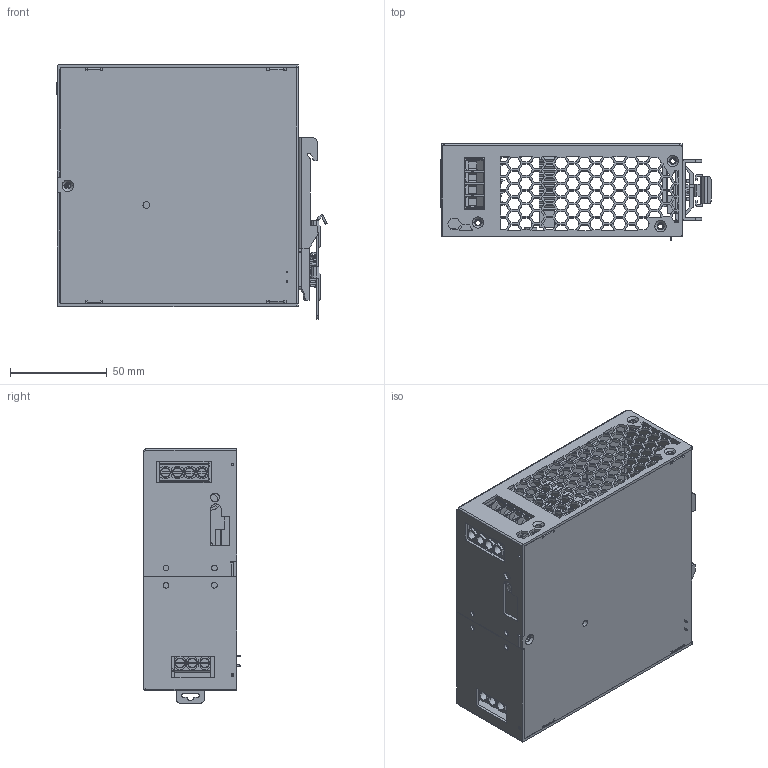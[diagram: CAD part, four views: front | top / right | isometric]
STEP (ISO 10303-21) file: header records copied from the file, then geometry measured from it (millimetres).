
FILE_DESCRIPTION(('Creo Elements/Direct Modeling STEP Export'),'2;1');
FILE_NAME('XDR-480高阶.stp','2025-12-02T10:07:30',(''),(''),'Creo Elements/Direct Modeling STEP processor for AP214 (Solid Model)','Creo Elements/Direct Modeling 19.0G 27-Nov-2017 (C) Parametric Technology GmbH','');
FILE_SCHEMA(('AUTOMOTIVE_DESIGN { 1 0 10303 214 1 1 1 1 }'));
Length unit declared in the file: millimetre
Products named in the file (171): 固定铁.1; SZ915-R1X.1; 1GG4CU-SZ039.1; 1GG4CU-SZ039.1.1; FG2; BOARD.PRT; DG637-6_35-03P-1Y-00AH.prt.1; DG637-6_35-03P-1Y-00AH.prt.2; DG637-6_35-03P-1Y-00AH.prt; TB1_1.ASM; _X2_4EA754C1_X0_1_ALLCATPART_1_.PRT; 4PIN__27MM.ASM; TB2_1.ASM; 512774800_1.PRT; 512774800_2.PRT; 512774800_3.PRT; 512774800_4.PRT; 512774800.ASM; R4.ASM; R3.ASM; CYLINDER-274838.PRT; 512786504.ASM.4; C1.ASM; USER_LIBRARY-KBJ-GSIB.PRT; BD1.ASM; EXTRUDED-344373.PRT; 2ARD-SURGE_ARRESTER.ASM; EXTRUDED-346773.PRT; 2ARD-SURGE_ARRESTER_4072498801.ASM.5; D4.ASM; 2CUX-SOIC8.PRT; U6.ASM; EXTRUDED-362335.PRT; 2CUX-SOD123.ASM; EXTRUDED-362863.PRT; 622740384.ASM; EXTRUDED-363240.PRT; 622741824.ASM; U5.ASM; R1.ASM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
Assembly tree (190 placements, depth 7):
  XDR-480E
    零件1.2
    零件1.1
    陶瓷片
    零件1
    固定铁
    麦拉3
    D1-73336.ASM
      1CDX-TO220AB-AC-VT.ASM
        USER_LIBRARY-TO220-2_V-L_TO220_.PRT
        USER_LIBRARY-TO220-2_V-L_FUSION.ASM
          USER_LIBRARY-TO220-2_V-L_FUSI_3.PRT
          USER_LIBRARY-TO220-2_V-L_FUSI_2.PRT
          USER_LIBRARY-TO220-2_V-L_FUSI_1.PRT
    Q1.ASM
      865563184.ASM.6  x2
        EXTRUDED-340821.PRT
      1CDX-TO220F-A_AKA_-VT-1_3608228.ASM
        EXTRUDED-340137.PRT
      1CDX-TO220F-A_AKA_-VT-1.PRT
    Q2.ASM
      865563184.ASM.6  x2
        EXTRUDED-340821.PRT
      1CDX-TO220F-A_AKA_-VT-1_3608228.ASM
        EXTRUDED-340137.PRT
      1CDX-TO220F-A_AKA_-VT-1.PRT
    CASE
      CASE.1
        HS2.1
          1GG2-MHS059
          1078469568
          1078469408
        NSDR-480
          上下盖
            下盖
            上盖
          挂座
            15.2
            15.3
            15.1
        HS2
          1GG2-MHS059
          1078469568
          1078469408
        散热片
          HSA1
            PIN2-2.1.1
            PIN2-2.1
            hs1
          散热片
          散热片-3
        麦拉
          麦拉
          1HH2PSR-480E-A
          1HH2PSR-480E-B
      HS2.1
        1GG2-MHS059
        1078469568
        1078469408
      NSDR-480
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Bounding box: 140.08 x 49.9 x 131.69 mm (x, y, z)
Volume: 180643 mm3; surface area: 316531.3 mm2
Topology: 107 solids, 141 shells, 8413 faces, 23545 edges, 15464 vertices
Faces by surface type: plane 6663, cylinder 941, extrusion 357, torus 172, cone 128, sphere 105, bspline 42, revolution 5
Entity records: 419090 total; most frequent: CARTESIAN_POINT 184622, ORIENTED_EDGE 43040, DIRECTION 37408, EDGE_CURVE 21520, VECTOR 18447, LINE 18306, VERTEX_POINT 14209, AXIS2_PLACEMENT_3D 9478
